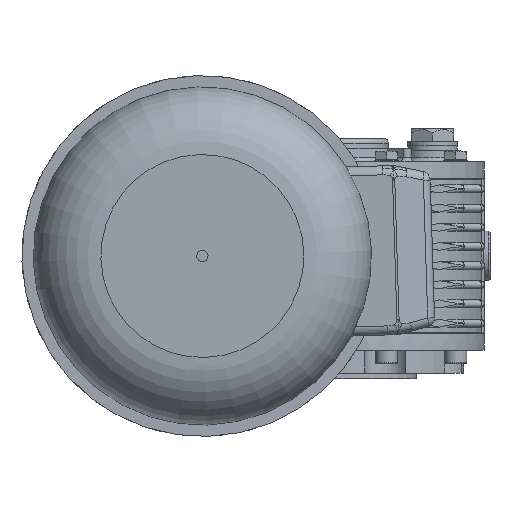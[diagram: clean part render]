
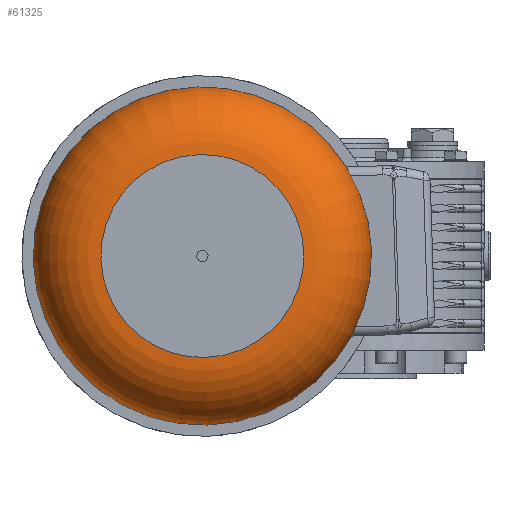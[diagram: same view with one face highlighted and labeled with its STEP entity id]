
A CAD part, left-side view. The second image highlights one B-rep face of the part: STEP entity #61325.
In plain terms, the highlighted toroidal (fillet/blend) face has major radius 45 mm and minor radius 30 mm.
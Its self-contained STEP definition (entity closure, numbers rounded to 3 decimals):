
#61298=CARTESIAN_POINT('',(314.0,0.0,0.0));
#61299=DIRECTION('',(1.0,0.0,0.0));
#61300=DIRECTION('',(0.0,0.0,-1.0));
#61301=AXIS2_PLACEMENT_3D('',#61298,#61299,#61300);
#61302=TOROIDAL_SURFACE('',#61301,45.,30.0);
#61303=CARTESIAN_POINT('',(344.0,45.,0.0));
#61304=VERTEX_POINT('',#61303);
#61305=CARTESIAN_POINT('',(344.0,0.0,0.0));
#61306=DIRECTION('',(1.0,0.0,0.0));
#61307=DIRECTION('',(0.0,1.0,0.0));
#61308=AXIS2_PLACEMENT_3D('',#61305,#61306,#61307);
#61309=CIRCLE('',#61308,45.);
#61310=EDGE_CURVE('',#61304,#61304,#61309,.T.);
#61311=ORIENTED_EDGE('',*,*,#61310,.F.);
#61312=EDGE_LOOP('',(#61311));
#61313=FACE_OUTER_BOUND('',#61312,.T.);
#61314=CARTESIAN_POINT('',(314.0,75.,0.0));
#61315=VERTEX_POINT('',#61314);
#61316=CARTESIAN_POINT('',(314.0,0.0,0.0));
#61317=DIRECTION('',(1.0,0.0,0.0));
#61318=DIRECTION('',(0.0,1.0,0.0));
#61319=AXIS2_PLACEMENT_3D('',#61316,#61317,#61318);
#61320=CIRCLE('',#61319,75.);
#61321=EDGE_CURVE('',#61315,#61315,#61320,.T.);
#61322=ORIENTED_EDGE('',*,*,#61321,.T.);
#61323=EDGE_LOOP('',(#61322));
#61324=FACE_BOUND('',#61323,.T.);
#61325=ADVANCED_FACE('',(#61313,#61324),#61302,.T.);
